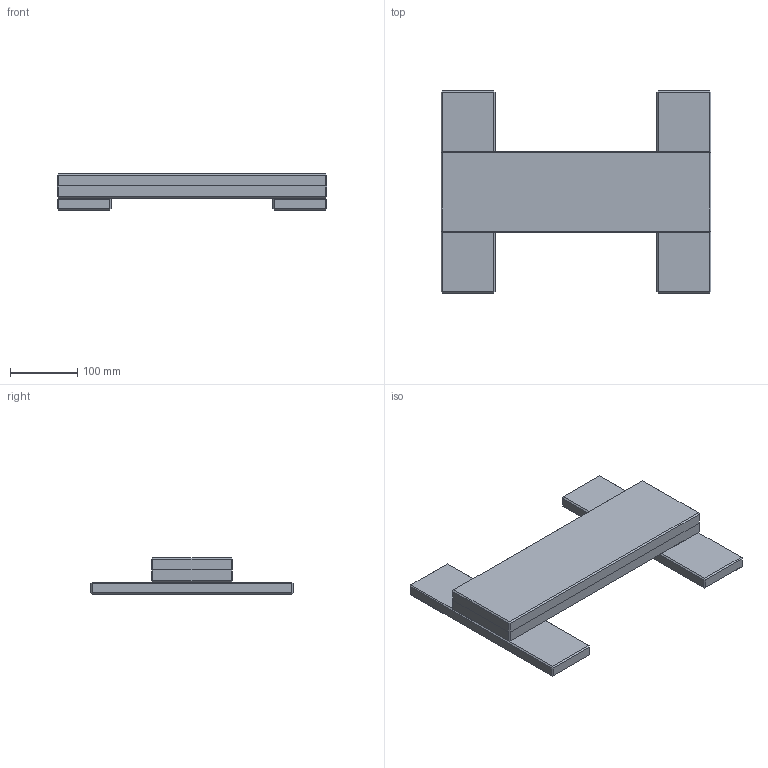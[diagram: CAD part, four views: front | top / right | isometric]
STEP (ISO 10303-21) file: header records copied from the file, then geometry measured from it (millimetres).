
FILE_DESCRIPTION(('Open CASCADE Model'),'2;1');
FILE_NAME('Open CASCADE Shape Model','2026-09-27T15:56:01',('Author'),( 'Open CASCADE'),'Open CASCADE STEP processor 7.9','Open CASCADE 7.9' ,'Unknown');
FILE_SCHEMA(('AUTOMOTIVE_DESIGN { 1 0 10303 214 1 1 1 1 }'));
Length unit declared in the file: millimetre
Products named in the file (5): balance-trainer-double; foot-1; foot-2; rail-1; rail-2
Assembly tree (4 placements, depth 2):
  balance-trainer-double
    foot-1
    foot-2
    rail-1
    rail-2
Bounding box: 400 x 300 x 54 mm (x, y, z)
Volume: 2581312 mm3; surface area: 346412 mm2
Topology: 4 solids, 4 shells, 88 faces, 168 edges, 88 vertices
Faces by surface type: plane 88
Entity records: 4370 total; most frequent: DIRECTION 690, CARTESIAN_POINT 685, LINE 504, VECTOR 504, ORIENTED_EDGE 336, PCURVE 336, DEFINITIONAL_REPRESENTATION 336, EDGE_CURVE 168
